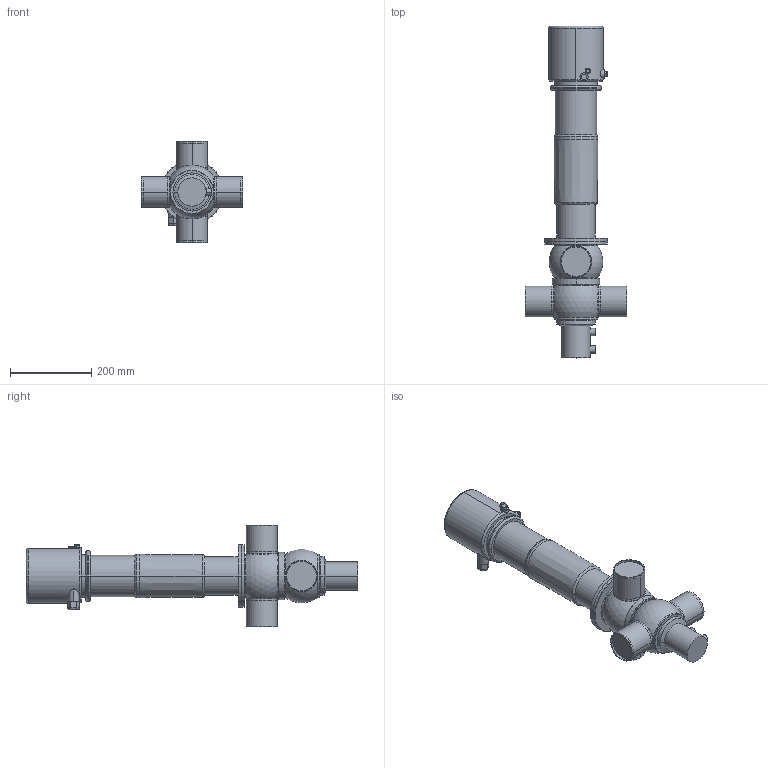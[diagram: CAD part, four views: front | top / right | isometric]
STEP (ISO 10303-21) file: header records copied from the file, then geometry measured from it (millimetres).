
FILE_DESCRIPTION(('Creo Elements/Direct Modeling STEP Export'),'2;1');
FILE_NAME('D44-3T_CU4.stp','2019-09-03T14:36:10',(''),(''),'PTC Creo Elements/Direct Modeling STEP processor for AP214 (Solid Model)','PTC Creo Elements/Direct Modeling 19.0B 21-Mar-2015 (C) Parametric Technology GmbH','');
FILE_SCHEMA(('AUTOMOTIVE_DESIGN { 1 0 10303 214 1 1 1 1 }'));
Length unit declared in the file: millimetre
Products named in the file (5): CU41-D4; drain_pipe-62; actuator_D4-100_yoke; housing_D44-3T; D44-3T_CU4
Assembly tree (4 placements, depth 2):
  D44-3T_CU4
    housing_D44-3T
    actuator_D4-100_yoke
    drain_pipe-62
    CU41-D4
Bounding box: 250 x 818.5 x 250 mm (x, y, z)
Volume: 9271708.4 mm3; surface area: 497323.5 mm2
Topology: 4 solids, 4 shells, 254 faces, 585 edges, 367 vertices
Faces by surface type: cylinder 100, plane 63, torus 44, extrusion 33, cone 10, sphere 4
Entity records: 11076 total; most frequent: CARTESIAN_POINT 5658, ORIENTED_EDGE 1170, DIRECTION 1002, EDGE_CURVE 585, AXIS2_PLACEMENT_3D 399, VERTEX_POINT 367, EDGE_LOOP 282, FACE_OUTER_BOUND 254
